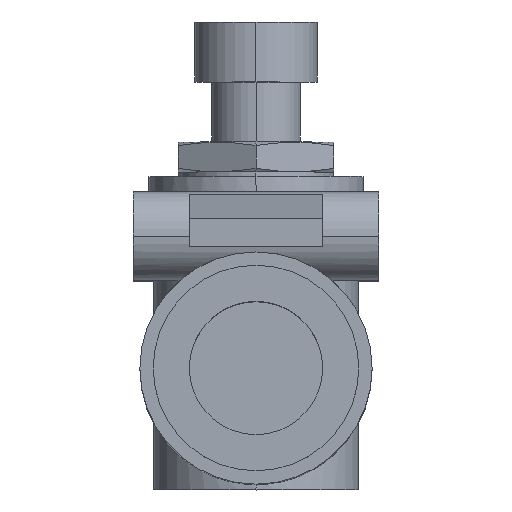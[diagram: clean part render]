
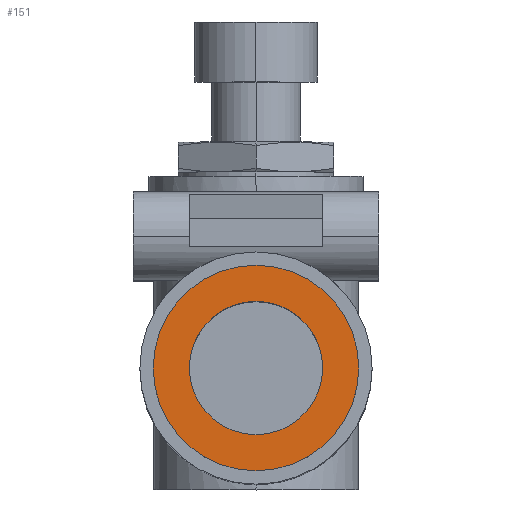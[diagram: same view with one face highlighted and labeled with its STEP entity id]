
A CAD part, top view. The second image highlights one B-rep face of the part: STEP entity #151.
In plain terms, the highlighted planar face has unit normal (0, 0, 1).
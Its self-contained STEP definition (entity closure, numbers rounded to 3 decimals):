
#151 = ADVANCED_FACE( '', ( #321, #322 ), #323, .T. );
#321 = FACE_BOUND( '', #494, .T. );
#322 = FACE_OUTER_BOUND( '', #495, .T. );
#323 = PLANE( '', #496 );
#494 = EDGE_LOOP( '', ( #1115, #1116 ) );
#495 = EDGE_LOOP( '', ( #1117, #1118 ) );
#496 = AXIS2_PLACEMENT_3D( '', #1119, #1120, #1121 );
#1115 = ORIENTED_EDGE( '', *, *, #1330, .F. );
#1116 = ORIENTED_EDGE( '', *, *, #1137, .F. );
#1117 = ORIENTED_EDGE( '', *, *, #1141, .T. );
#1118 = ORIENTED_EDGE( '', *, *, #1329, .T. );
#1119 = CARTESIAN_POINT( '', ( 0., 7.625, 38. ) );
#1120 = DIRECTION( '', ( 0., 0., 1. ) );
#1121 = DIRECTION( '', ( 0., 1., 0. ) );
#1137 = EDGE_CURVE( '', #1337, #1333, #1339, .T. );
#1141 = EDGE_CURVE( '', #1341, #1345, #1347, .T. );
#1329 = EDGE_CURVE( '', #1345, #1341, #1659, .T. );
#1330 = EDGE_CURVE( '', #1333, #1337, #1660, .T. );
#1333 = VERTEX_POINT( '', #1663 );
#1337 = VERTEX_POINT( '', #1668 );
#1339 = CIRCLE( '', #1671, 6. );
#1341 = VERTEX_POINT( '', #1673 );
#1345 = VERTEX_POINT( '', #1678 );
#1347 = CIRCLE( '', #1681, 9.25 );
#1659 = CIRCLE( '', #2911, 9.25 );
#1660 = CIRCLE( '', #2912, 6. );
#1663 = CARTESIAN_POINT( '', ( 0., 6., 38. ) );
#1668 = CARTESIAN_POINT( '', ( 0., -6., 38. ) );
#1671 = AXIS2_PLACEMENT_3D( '', #2919, #2920, #2921 );
#1673 = CARTESIAN_POINT( '', ( 0., 9.25, 38. ) );
#1678 = CARTESIAN_POINT( '', ( 0., -9.25, 38. ) );
#1681 = AXIS2_PLACEMENT_3D( '', #2927, #2928, #2929 );
#2911 = AXIS2_PLACEMENT_3D( '', #3227, #3228, #3229 );
#2912 = AXIS2_PLACEMENT_3D( '', #3230, #3231, #3232 );
#2919 = CARTESIAN_POINT( '', ( 0., 0., 38. ) );
#2920 = DIRECTION( '', ( 0., 0., 1. ) );
#2921 = DIRECTION( '', ( 0., 1., 0. ) );
#2927 = CARTESIAN_POINT( '', ( 0., 0., 38. ) );
#2928 = DIRECTION( '', ( 0., 0., 1. ) );
#2929 = DIRECTION( '', ( 0., 1., 0. ) );
#3227 = CARTESIAN_POINT( '', ( 0., 0., 38. ) );
#3228 = DIRECTION( '', ( 0., 0., 1. ) );
#3229 = DIRECTION( '', ( 0., 1., 0. ) );
#3230 = CARTESIAN_POINT( '', ( 0., 0., 38. ) );
#3231 = DIRECTION( '', ( 0., 0., 1. ) );
#3232 = DIRECTION( '', ( 0., 1., 0. ) );
